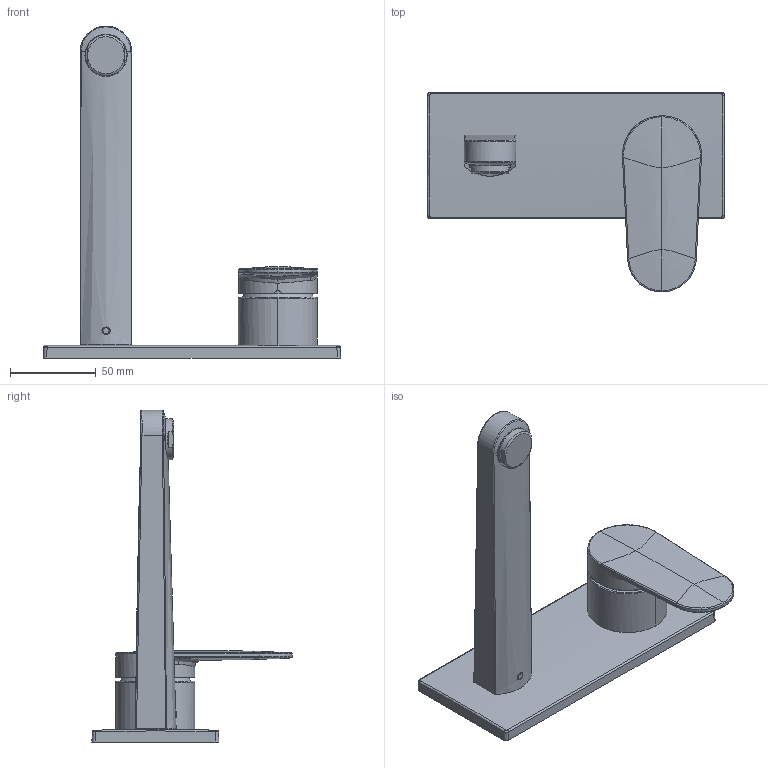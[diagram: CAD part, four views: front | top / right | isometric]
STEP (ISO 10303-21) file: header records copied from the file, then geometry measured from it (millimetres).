
FILE_DESCRIPTION((''),'2;1');
FILE_NAME('11_382_033_XXX','2018-02-14T',('ES997'),(''),'CREO PARAMETRIC BY PTC INC, 2016260','CREO PARAMETRIC BY PTC INC, 2016260','');
FILE_SCHEMA(('CONFIG_CONTROL_DESIGN'));
Length unit declared in the file: millimetre
Products named in the file (1): 11_382_033_XXX
Bounding box: 172.84 x 116.39 x 193.11 mm (x, y, z)
Volume: 277716.6 mm3; surface area: 58280.9 mm2
Topology: 1 solids, 1 shells, 104 faces, 234 edges, 141 vertices
Faces by surface type: bspline 47, cylinder 19, plane 19, extrusion 6, torus 6, cone 4, sphere 2, revolution 1
Entity records: 23840 total; most frequent: CARTESIAN_POINT 21877, ORIENTED_EDGE 468, DIRECTION 273, EDGE_CURVE 234, VERTEX_POINT 141, B_SPLINE_CURVE_WITH_KNOTS 137, EDGE_LOOP 113, AXIS2_PLACEMENT_3D 112
